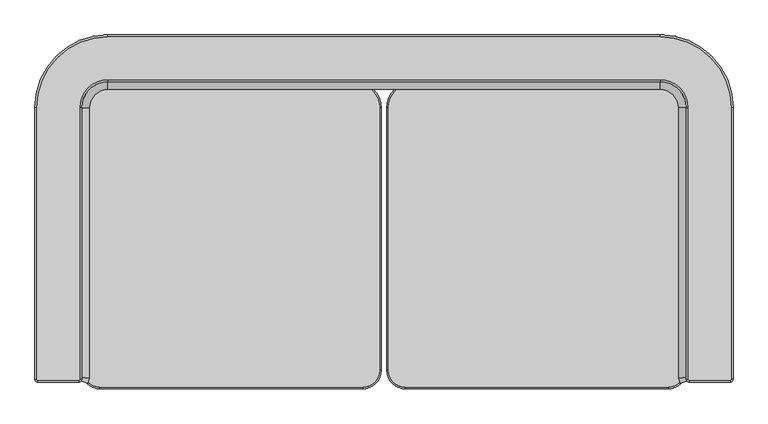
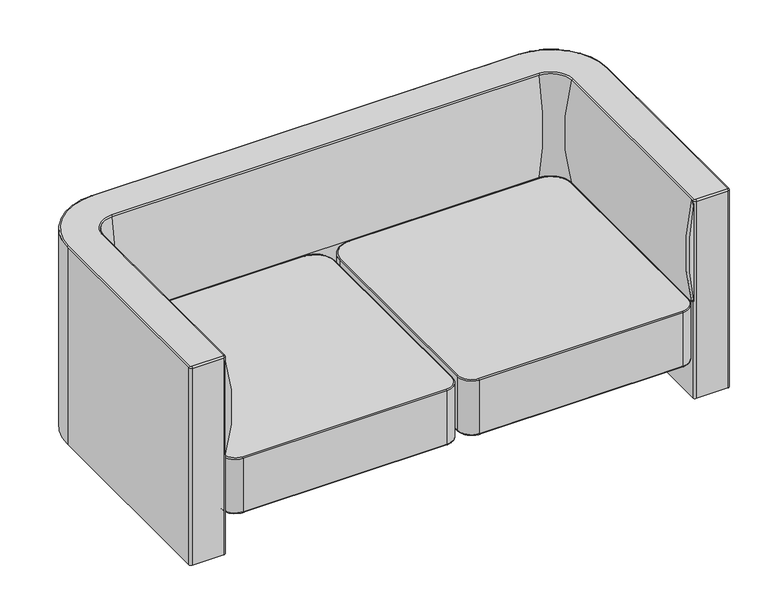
"""IFC4 building model written with IfcOpenShell, lengths in millimetres: furniture geometry, 00304 - Haworth - Castelli - Jul 13 - Ver - 4 - M_Sit (SLMS-FD02-8P) : Settee_SLMS-FD-02."""

from ifc_helpers import new_model, si_unit, point, frame, origin, place, context, project, spatial, polyline, circle_curve, ellipse_curve, trimmed, source, transform, mapped, element, save
from ifc_brep_helpers import plane_surface, cylinder_surface, revolved_surface, advanced_brep


def furniture_bfac4297(model_context):
    return source(origin(), model_context, "Body", "AdvancedBrep", [
        advanced_brep(
        [(84.0911369, -82.8725513, 394.49375), (656.2360588, -82.8725513, 394.49375), (692.7485588, -46.3600513, 394.49375), (692.7485588, 524.8422924, 394.49375), (638.7735588, 578.8172924, 394.49375), (101.5536369, 578.8172924, 394.49375), (47.5786369, 524.8422924, 394.49375), (47.5786369, -46.3600513, 394.49375), (656.2360588, -82.8725513, 229.39375), (84.0911369, -82.8725513, 229.39375), (47.5786369, -46.3600513, 229.39375), (47.5786369, 524.8422924, 229.39375), (101.5536369, 578.8172924, 229.39375), (638.7735588, 578.8172924, 229.39375), (692.7485588, 524.8422924, 229.39375), (692.7485588, -46.3600513, 229.39375), (695.9235588, 524.8422924, 391.31875), (695.9235588, -46.3600513, 391.31875), (695.9235588, -46.3600513, 232.56875), (695.9235588, 524.8422924, 232.56875), (638.7735588, 581.9922924, 391.31875), (638.7735588, 581.9922924, 232.56875), (101.5536369, 581.9922924, 391.31875), (101.5536369, 581.9922924, 232.56875), (44.4036369, 524.8422924, 391.31875), (44.4036369, 524.8422924, 232.56875), (44.4036369, -46.3600513, 391.31875), (44.4036369, -46.3600513, 232.56875), (84.0911369, -86.0475513, 391.31875), (84.0911369, -86.0475513, 232.56875), (656.2360588, -86.0475513, 391.31875), (656.2360588, -86.0475513, 232.56875)],
        [
            (0, 1),
            (1, 2, circle_curve(frame((656.2360588, -46.3600513, 394.49375), z_axis=(0.0, 0.0, 1.0), x_axis=(1.0, 0.0, 0.0)), 36.5125)),
            (2, 3),
            (3, 4, circle_curve(frame((638.7735588, 524.8422924, 394.49375), z_axis=(0.0, 0.0, 1.0), x_axis=(0.0, 1.0, 0.0)), 53.975)),
            (4, 5),
            (5, 6, circle_curve(frame((101.5536369, 524.8422924, 394.49375), z_axis=(0.0, 0.0, 1.0), x_axis=(-1.0, 0.0, 0.0)), 53.975)),
            (6, 7),
            (7, 0, circle_curve(frame((84.0911369, -46.3600513, 394.49375), z_axis=(0.0, 0.0, 1.0), x_axis=(0.0, -1.0, 0.0)), 36.5125)),
            (8, 9),
            (9, 10, circle_curve(frame((84.0911369, -46.3600513, 229.39375), z_axis=(0.0, 0.0, -1.0), x_axis=(0.0, -1.0, 0.0)), 36.5125)),
            (10, 11),
            (11, 12, circle_curve(frame((101.5536369, 524.8422924, 229.39375), z_axis=(0.0, 0.0, -1.0), x_axis=(-1.0, 0.0, 0.0)), 53.975)),
            (12, 13),
            (13, 14, circle_curve(frame((638.7735588, 524.8422924, 229.39375), z_axis=(0.0, 0.0, -1.0), x_axis=(0.0, 1.0, 0.0)), 53.975)),
            (14, 15),
            (15, 8, circle_curve(frame((656.2360588, -46.3600513, 229.39375), z_axis=(0.0, 0.0, -1.0), x_axis=(1.0, 0.0, 0.0)), 36.5125)),
            (16, 17),
            (17, 18),
            (18, 19),
            (19, 16),
            (20, 16, circle_curve(frame((638.7735588, 524.8422924, 391.31875), z_axis=(0.0, 0.0, -1.0), x_axis=(1.0, 0.0, 0.0)), 57.15)),
            (19, 21, circle_curve(frame((638.7735588, 524.8422924, 232.56875), z_axis=(0.0, 0.0, 1.0), x_axis=(1.0, 0.0, 0.0)), 57.15)),
            (21, 20),
            (22, 20),
            (21, 23),
            (23, 22),
            (24, 22, circle_curve(frame((101.5536369, 524.8422924, 391.31875), z_axis=(0.0, 0.0, -1.0), x_axis=(1.0, 0.0, 0.0)), 57.15)),
            (23, 25, circle_curve(frame((101.5536369, 524.8422924, 232.56875), z_axis=(0.0, 0.0, 1.0), x_axis=(1.0, 0.0, 0.0)), 57.15)),
            (25, 24),
            (26, 24),
            (25, 27),
            (27, 26),
            (28, 26, circle_curve(frame((84.0911369, -46.3600513, 391.31875), z_axis=(0.0, 0.0, -1.0), x_axis=(1.0, 0.0, 0.0)), 39.6875)),
            (27, 29, circle_curve(frame((84.0911369, -46.3600513, 232.56875), z_axis=(0.0, 0.0, 1.0), x_axis=(1.0, 0.0, 0.0)), 39.6875)),
            (29, 28),
            (30, 28),
            (29, 31),
            (31, 30),
            (17, 30, circle_curve(frame((656.2360588, -46.3600513, 391.31875), z_axis=(0.0, 0.0, -1.0), x_axis=(1.0, 0.0, 0.0)), 39.6875)),
            (31, 18, circle_curve(frame((656.2360588, -46.3600513, 232.56875), z_axis=(0.0, 0.0, 1.0), x_axis=(1.0, 0.0, 0.0)), 39.6875)),
            (0, 28, circle_curve(frame((84.0911369, -82.8725513, 391.31875), z_axis=(1.0, 0.0, 0.0), x_axis=(0.0, -1.0, 0.0)), 3.175)),
            (30, 1, circle_curve(frame((656.2360588, -82.8725513, 391.31875), z_axis=(-1.0, 0.0, 0.0), x_axis=(0.0, -1.0, 0.0)), 3.175)),
            (7, 26, circle_curve(frame((47.5786369, -46.3600513, 391.31875), z_axis=(0.0, -1.0, 0.0), x_axis=(-1.0, 0.0, 0.0)), 3.175)),
            (6, 24, circle_curve(frame((47.5786369, 524.8422924, 391.31875), z_axis=(0.0, -1.0, 0.0), x_axis=(-1.0, 0.0, 0.0)), 3.175)),
            (5, 22, circle_curve(frame((101.5536369, 578.8172924, 391.31875), z_axis=(-1.0, 0.0, 0.0), x_axis=(0.0, 1.0, 0.0)), 3.175)),
            (4, 20, circle_curve(frame((638.7735588, 578.8172924, 391.31875), z_axis=(-1.0, 0.0, 0.0), x_axis=(0.0, 1.0, 0.0)), 3.175)),
            (3, 16, circle_curve(frame((692.7485588, 524.8422924, 391.31875), z_axis=(0.0, 1.0, 0.0), x_axis=(1.0, 0.0, 0.0)), 3.175)),
            (2, 17, circle_curve(frame((692.7485588, -46.3600513, 391.31875), z_axis=(0.0, 1.0, 0.0), x_axis=(1.0, 0.0, 0.0)), 3.175)),
            (29, 9, circle_curve(frame((84.0911369, -82.8725513, 232.56875), z_axis=(1.0, 0.0, 0.0), x_axis=(0.0, -1.0, 0.0)), 3.175)),
            (8, 31, circle_curve(frame((656.2360588, -82.8725513, 232.56875), z_axis=(-1.0, 0.0, 0.0), x_axis=(0.0, -1.0, 0.0)), 3.175)),
            (27, 10, circle_curve(frame((47.5786369, -46.3600513, 232.56875), z_axis=(0.0, -1.0, 0.0), x_axis=(-1.0, 0.0, 0.0)), 3.175)),
            (25, 11, circle_curve(frame((47.5786369, 524.8422924, 232.56875), z_axis=(0.0, -1.0, 0.0), x_axis=(-1.0, 0.0, 0.0)), 3.175)),
            (23, 12, circle_curve(frame((101.5536369, 578.8172924, 232.56875), z_axis=(-1.0, 0.0, 0.0), x_axis=(0.0, 1.0, 0.0)), 3.175)),
            (21, 13, circle_curve(frame((638.7735588, 578.8172924, 232.56875), z_axis=(-1.0, 0.0, 0.0), x_axis=(0.0, 1.0, 0.0)), 3.175)),
            (19, 14, circle_curve(frame((692.7485588, 524.8422924, 232.56875), z_axis=(0.0, 1.0, 0.0), x_axis=(1.0, 0.0, 0.0)), 3.175)),
            (18, 15, circle_curve(frame((692.7485588, -46.3600513, 232.56875), z_axis=(0.0, 1.0, 0.0), x_axis=(1.0, 0.0, 0.0)), 3.175)),
        ],
        [
            plane_surface(frame((695.9235588, 524.8422924, 394.49375), z_axis=(0.0, 0.0, 1.0), x_axis=(0.0, 1.0, 0.0))),
            plane_surface(frame((695.9235588, 524.8422924, 229.39375), z_axis=(0.0, 0.0, -1.0), x_axis=(0.0, -1.0, 0.0))),
            plane_surface(frame((695.9235588, -46.3600513, 394.49375), z_axis=(1.0, 0.0, 0.0), x_axis=(0.0, 0.0, -1.0))),
            cylinder_surface(frame((638.7735588, 524.8422924, 229.39375), z_axis=(0.0, 0.0, 1.0), x_axis=(1.0, 0.0, 0.0)), 57.15),
            plane_surface(frame((638.7735588, 581.9922924, 394.49375), z_axis=(0.0, 1.0, 0.0), x_axis=(0.0, 0.0, -1.0))),
            cylinder_surface(frame((101.5536369, 524.8422924, 229.39375), z_axis=(0.0, 0.0, 1.0), x_axis=(1.0, 0.0, 0.0)), 57.15),
            plane_surface(frame((44.4036369, 524.8422924, 394.49375), z_axis=(-1.0, 0.0, 0.0), x_axis=(0.0, 0.0, -1.0))),
            cylinder_surface(frame((84.0911369, -46.3600513, 229.39375), z_axis=(0.0, 0.0, 1.0), x_axis=(1.0, 0.0, 0.0)), 39.6875),
            plane_surface(frame((84.0911369, -86.0475513, 394.49375), z_axis=(0.0, -1.0, 0.0), x_axis=(0.0, 0.0, -1.0))),
            cylinder_surface(frame((656.2360588, -46.3600513, 229.39375), z_axis=(0.0, 0.0, 1.0), x_axis=(1.0, 0.0, 0.0)), 39.6875),
            cylinder_surface(frame((656.2360588, -82.8725513, 391.31875), z_axis=(-1.0, 0.0, 0.0), x_axis=(0.0, -1.0, 0.0)), 3.175),
            revolved_surface(trimmed(ellipse_curve(frame((84.0911369, -82.8725513, 391.31875), z_axis=(1.0, 0.0, 0.0), x_axis=(0.0, -1.0, 0.0)), 3.175, 3.175), [point((84.0911369, -82.8725513, 394.49375))], [point((84.0911369, -86.0475513, 391.31875))], True, "CARTESIAN"), (84.0911369, -46.3600513, 394.49375), (0.0, 0.0, -1.0)),
            cylinder_surface(frame((47.5786369, -46.3600513, 391.31875), z_axis=(0.0, 1.0, 0.0), x_axis=(-1.0, 0.0, 0.0)), 3.175),
            revolved_surface(trimmed(ellipse_curve(frame((47.5786369, 524.8422924, 391.31875), z_axis=(0.0, -1.0, 0.0), x_axis=(-1.0, 0.0, 0.0)), 3.175, 3.175), [point((47.5786369, 524.8422924, 394.49375))], [point((44.4036369, 524.8422924, 391.31875))], True, "CARTESIAN"), (101.5536369, 524.8422924, 394.49375), (0.0, 0.0, -1.0)),
            cylinder_surface(frame((101.5536369, 578.8172924, 391.31875), z_axis=(1.0, 0.0, 0.0), x_axis=(0.0, 1.0, 0.0)), 3.175),
            revolved_surface(trimmed(ellipse_curve(frame((638.7735588, 578.8172924, 391.31875), z_axis=(-1.0, 0.0, 0.0), x_axis=(0.0, 1.0, 0.0)), 3.175, 3.175), [point((638.7735588, 578.8172924, 394.49375))], [point((638.7735588, 581.9922924, 391.31875))], True, "CARTESIAN"), (638.7735588, 524.8422924, 394.49375), (0.0, 0.0, -1.0)),
            cylinder_surface(frame((692.7485588, 524.8422924, 391.31875), z_axis=(0.0, -1.0, 0.0), x_axis=(1.0, 0.0, 0.0)), 3.175),
            revolved_surface(trimmed(ellipse_curve(frame((692.7485588, -46.3600513, 391.31875), z_axis=(0.0, 1.0, 0.0), x_axis=(1.0, 0.0, 0.0)), 3.175, 3.175), [point((692.7485588, -46.3600513, 394.49375))], [point((695.9235588, -46.3600513, 391.31875))], True, "CARTESIAN"), (656.2360588, -46.3600513, 394.49375), (0.0, 0.0, -1.0)),
            cylinder_surface(frame((656.2360588, -82.8725513, 232.56875), z_axis=(-1.0, 0.0, 0.0), x_axis=(0.0, -1.0, 0.0)), 3.175),
            revolved_surface(trimmed(ellipse_curve(frame((84.0911369, -82.8725513, 232.56875), z_axis=(1.0, 0.0, 0.0), x_axis=(0.0, -1.0, 0.0)), 3.175, 3.175), [point((84.0911369, -86.0475513, 232.56875))], [point((84.0911369, -82.8725513, 229.39375))], True, "CARTESIAN"), (84.0911369, -46.3600513, 229.39375), (0.0, 0.0, -1.0)),
            cylinder_surface(frame((47.5786369, -46.3600513, 232.56875), z_axis=(0.0, 1.0, 0.0), x_axis=(-1.0, 0.0, 0.0)), 3.175),
            revolved_surface(trimmed(ellipse_curve(frame((47.5786369, 524.8422924, 232.56875), z_axis=(0.0, -1.0, 0.0), x_axis=(-1.0, 0.0, 0.0)), 3.175, 3.175), [point((44.4036369, 524.8422924, 232.56875))], [point((47.5786369, 524.8422924, 229.39375))], True, "CARTESIAN"), (101.5536369, 524.8422924, 229.39375), (0.0, 0.0, -1.0)),
            cylinder_surface(frame((101.5536369, 578.8172924, 232.56875), z_axis=(1.0, 0.0, 0.0), x_axis=(0.0, 1.0, 0.0)), 3.175),
            revolved_surface(trimmed(ellipse_curve(frame((638.7735588, 578.8172924, 232.56875), z_axis=(-1.0, 0.0, 0.0), x_axis=(0.0, 1.0, 0.0)), 3.175, 3.175), [point((638.7735588, 581.9922924, 232.56875))], [point((638.7735588, 578.8172924, 229.39375))], True, "CARTESIAN"), (638.7735588, 524.8422924, 229.39375), (0.0, 0.0, -1.0)),
            cylinder_surface(frame((692.7485588, 524.8422924, 232.56875), z_axis=(0.0, -1.0, 0.0), x_axis=(1.0, 0.0, 0.0)), 3.175),
            revolved_surface(trimmed(ellipse_curve(frame((692.7485588, -46.3600513, 232.56875), z_axis=(0.0, 1.0, 0.0), x_axis=(1.0, 0.0, 0.0)), 3.175, 3.175), [point((695.9235588, -46.3600513, 232.56875))], [point((692.7485588, -46.3600513, 229.39375))], True, "CARTESIAN"), (656.2360588, -46.3600513, 229.39375), (0.0, 0.0, -1.0)),
        ],
        [
            (0, [[1, 2, 3, 4, 5, 6, 7, 8]]),
            (1, [[9, 10, 11, 12, 13, 14, 15, 16]]),
            (2, [[17, 18, 19, 20]]),
            (3, [[21, -20, 22, 23]]),
            (4, [[24, -23, 25, 26]]),
            (5, [[27, -26, 28, 29]]),
            (6, [[30, -29, 31, 32]]),
            (7, [[33, -32, 34, 35]]),
            (8, [[36, -35, 37, 38]]),
            (9, [[39, -38, 40, -18]]),
            (10, [[41, -36, 42, -1]]),
            (11, [[-41, -8, 43, -33]]),
            (12, [[-43, -7, 44, -30]]),
            (13, [[-44, -6, 45, -27]]),
            (14, [[-45, -5, 46, -24]]),
            (15, [[-46, -4, 47, -21]]),
            (16, [[-47, -3, 48, -17]]),
            (17, [[-42, -39, -48, -2]]),
            (18, [[49, -9, 50, -37]]),
            (19, [[-49, -34, 51, -10]]),
            (20, [[-51, -31, 52, -11]]),
            (21, [[-52, -28, 53, -12]]),
            (22, [[-53, -25, 54, -13]]),
            (23, [[-54, -22, 55, -14]]),
            (24, [[-55, -19, 56, -15]]),
            (25, [[-50, -16, -56, -40]]),
        ],
    ),
        advanced_brep(
        [(698.8311717, -68.74393, 394.49375), (698.8311717, -68.74393, 697.6487058), (695.9235588, -60.7553292, 394.49375), (695.9235588, -60.7553292, 697.6487058), (695.9235588, -46.3600513, 394.49375), (695.9235588, 524.8422924, 394.49375), (695.9235588, 524.8422924, 697.6487058), (638.7735588, 581.9922924, 394.49375), (638.7735588, 581.9922924, 697.6487058), (101.5536369, 581.9922924, 394.49375), (-25.4463631, 581.9922924, 394.49375), (-562.666285, 581.9922924, 394.49375), (-562.666285, 581.9922924, 697.6487058), (-619.816285, 524.8422924, 394.49375), (-619.816285, 524.8422924, 697.6487058), (-619.816285, -46.3600513, 394.49375), (-619.816285, -60.7553292, 394.49375), (-619.816285, -60.7553292, 697.6487058), (-622.7238979, -68.74393, 394.49375), (-622.7238979, -68.74393, 697.6487058)],
        [
            (0, 1),
            (1, 0, circle_curve(frame((1252.1749523, 132.6567355, 546.0712279), z_axis=(0.342020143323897, -0.9396926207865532, 0.0), x_axis=(-0.9396926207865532, -0.342020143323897, 0.0)), 608.0520532)),
            (0, 2),
            (2, 3),
            (3, 1),
            (3, 2, ellipse_curve(frame((1284.7797107, 43.0758981, 546.0712279), z_axis=(0.17364817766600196, -0.9848077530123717, 0.0), x_axis=(0.984807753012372, 0.17364817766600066, 0.0)), 617.4322363, 608.0520532)),
            (2, 4),
            (4, 5),
            (5, 6),
            (6, 3),
            (6, 5, circle_curve(frame((1284.7797107, 524.8422924, 546.0712279), z_axis=(0.0, -1.0, 0.0), x_axis=(-1.0, 0.0, 0.0)), 608.0520532)),
            (5, 7, circle_curve(frame((638.7735588, 524.8422924, 394.49375), z_axis=(0.0, 0.0, 1.0), x_axis=(1.0, 0.0, 0.0)), 57.15)),
            (7, 8),
            (8, 6, circle_curve(frame((638.7735588, 524.8422924, 697.6487058), z_axis=(0.0, 0.0, -1.0), x_axis=(1.0, 0.0, 0.0)), 57.15)),
            (8, 7, circle_curve(frame((638.7735588, 1170.8484443, 546.0712279), z_axis=(1.0, 0.0, 0.0), x_axis=(0.0, -1.0, 0.0)), 608.0520532)),
            (7, 9),
            (9, 10),
            (10, 11),
            (11, 12),
            (12, 8),
            (12, 11, circle_curve(frame((-562.666285, 1170.8484443, 546.0712279), z_axis=(1.0, 0.0, 0.0), x_axis=(0.0, -1.0, 0.0)), 608.0520532)),
            (11, 13, circle_curve(frame((-562.666285, 524.8422924, 394.49375), z_axis=(0.0, 0.0, 1.0), x_axis=(0.0, 1.0, 0.0)), 57.15)),
            (13, 14),
            (14, 12, circle_curve(frame((-562.666285, 524.8422924, 697.6487058), z_axis=(0.0, 0.0, -1.0), x_axis=(0.0, 1.0, 0.0)), 57.15)),
            (14, 13, circle_curve(frame((-1208.6724368, 524.8422924, 546.0712279), z_axis=(0.0, 1.0, 0.0), x_axis=(1.0, 0.0, 0.0)), 608.0520532)),
            (13, 15),
            (15, 16),
            (16, 17),
            (17, 14),
            (17, 16, ellipse_curve(frame((-1208.6724368, 43.0758981, 546.0712279), z_axis=(0.1736481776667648, 0.9848077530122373, 0.0), x_axis=(-0.9848077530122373, 0.17364817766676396, 0.0)), 617.4322363, 608.0520532)),
            (18, 19, circle_curve(frame((-1176.0676785, 132.6567355, 546.0712279), z_axis=(-0.3420201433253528, -0.9396926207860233, 0.0), x_axis=(0.9396926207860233, -0.3420201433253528, 0.0)), 608.0520532)),
            (19, 18),
            (16, 18),
            (19, 17),
        ],
        [
            plane_surface(frame((698.8311717, -68.74393, 394.49375), z_axis=(0.342020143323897, -0.9396926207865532, 0.0), x_axis=(0.0, 0.0, 1.0))),
            plane_surface(frame((698.8311717, -68.74393, 394.49375), z_axis=(0.9396926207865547, 0.3420201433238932, 0.0), x_axis=(-0.3420201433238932, 0.9396926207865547, 0.0))),
            cylinder_surface(frame((1252.1749523, 132.6567355, 546.0712279), z_axis=(0.342020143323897, -0.9396926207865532, 0.0), x_axis=(-0.9396926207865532, -0.342020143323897, 0.0)), 608.0520532),
            plane_surface(frame((695.9235588, -60.7553292, 394.49375), z_axis=(1.0, 0.0, 0.0), x_axis=(0.0, 1.0, 0.0))),
            cylinder_surface(frame((1284.7797107, -60.7553292, 546.0712279), z_axis=(0.0, -1.0, 0.0), x_axis=(-1.0, 0.0, 0.0)), 608.0520532),
            cylinder_surface(frame((638.7735588, 524.8422924, 394.49375), z_axis=(0.0, 0.0, 1.0), x_axis=(1.0, 0.0, 0.0)), 57.15),
            revolved_surface(trimmed(ellipse_curve(frame((1284.7797107, 524.8422924, 546.0712279), z_axis=(0.0, -1.0, 0.0), x_axis=(-1.0, 0.0, 0.0)), 608.0520532, 608.0520532), [point((695.9235588, 524.8422924, 697.6487058))], [point((695.9235588, 524.8422924, 394.49375))], True, "CARTESIAN"), (638.7735588, 524.8422924, 394.49375), (0.0, 0.0, 1.0)),
            plane_surface(frame((638.7735588, 581.9922924, 394.49375), z_axis=(0.0, 1.0, 0.0), x_axis=(-1.0, 0.0, 0.0))),
            cylinder_surface(frame((638.7735588, 1170.8484443, 546.0712279), z_axis=(1.0, 0.0, 0.0), x_axis=(0.0, -1.0, 0.0)), 608.0520532),
            cylinder_surface(frame((-562.666285, 524.8422924, 394.49375), z_axis=(0.0, 0.0, 1.0), x_axis=(0.0, 1.0, 0.0)), 57.15),
            revolved_surface(trimmed(ellipse_curve(frame((-562.666285, 1170.8484443, 546.0712279), z_axis=(1.0, 0.0, 0.0), x_axis=(0.0, -1.0, 0.0)), 608.0520532, 608.0520532), [point((-562.666285, 581.9922924, 697.6487058))], [point((-562.666285, 581.9922924, 394.49375))], True, "CARTESIAN"), (-562.666285, 524.8422924, 394.49375), (0.0, 0.0, 1.0)),
            plane_surface(frame((-619.816285, 524.8422924, 394.49375), z_axis=(-1.0, 0.0, 0.0), x_axis=(0.0, -1.0, 0.0))),
            cylinder_surface(frame((-1208.6724368, 524.8422924, 546.0712279), z_axis=(0.0, 1.0, 0.0), x_axis=(1.0, 0.0, 0.0)), 608.0520532),
            plane_surface(frame((-622.7238979, -68.74393, 394.49375), z_axis=(-0.3420201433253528, -0.9396926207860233, 0.0), x_axis=(0.0, 0.0, 1.0))),
            plane_surface(frame((-619.816285, -60.7553292, 394.49375), z_axis=(-0.9396926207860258, 0.3420201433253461, 0.0), x_axis=(-0.3420201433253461, -0.9396926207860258, 0.0))),
            cylinder_surface(frame((-1173.1600656, 140.6453363, 546.0712279), z_axis=(0.3420201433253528, 0.9396926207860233, 0.0), x_axis=(0.9396926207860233, -0.3420201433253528, 0.0)), 608.0520532),
        ],
        [
            (0, [[1, 2]]),
            (1, [[-1, 3, 4, 5]]),
            (2, [[-2, -5, 6, -3]]),
            (3, [[-4, 7, 8, 9, 10]]),
            (4, [[-6, -10, 11, -8, -7]]),
            (5, [[-9, 12, 13, 14]]),
            (6, [[-11, -14, 15, -12]]),
            (7, [[-13, 16, 17, 18, 19, 20]]),
            (8, [[-15, -20, 21, -18, -17, -16]]),
            (9, [[-19, 22, 23, 24]]),
            (10, [[-21, -24, 25, -22]]),
            (11, [[-23, 26, 27, 28, 29]]),
            (12, [[-25, -29, 30, -27, -26]]),
            (13, [[31, 32]]),
            (14, [[-28, 33, -32, 34]]),
            (15, [[-30, -34, -31, -33]]),
        ],
    ),
        advanced_brep(
        [(-580.128785, -82.8725513, 394.49375), (-7.9838631, -82.8725513, 394.49375), (28.5286369, -46.3600513, 394.49375), (28.5286369, 524.8422924, 394.49375), (-25.4463631, 578.8172924, 394.49375), (-562.666285, 578.8172924, 394.49375), (-616.641285, 524.8422924, 394.49375), (-616.641285, -46.3600513, 394.49375), (-7.9838631, -82.8725513, 229.39375), (-580.128785, -82.8725513, 229.39375), (-616.641285, -46.3600513, 229.39375), (-616.641285, 524.8422924, 229.39375), (-562.666285, 578.8172924, 229.39375), (-25.4463631, 578.8172924, 229.39375), (28.5286369, 524.8422924, 229.39375), (28.5286369, -46.3600513, 229.39375), (-580.128785, -86.0475513, 391.31875), (-619.816285, -46.3600513, 391.31875), (-619.816285, -46.3600513, 232.56875), (-580.128785, -86.0475513, 232.56875), (-7.9838631, -86.0475513, 391.31875), (-7.9838631, -86.0475513, 232.56875), (31.7036369, -46.3600513, 391.31875), (31.7036369, -46.3600513, 232.56875), (31.7036369, 524.8422924, 391.31875), (31.7036369, 524.8422924, 232.56875), (-25.4463631, 581.9922924, 391.31875), (-25.4463631, 581.9922924, 232.56875), (-562.666285, 581.9922924, 391.31875), (-562.666285, 581.9922924, 232.56875), (-619.816285, 524.8422924, 391.31875), (-619.816285, 524.8422924, 232.56875)],
        [
            (0, 1),
            (1, 2, circle_curve(frame((-7.9838631, -46.3600513, 394.49375), z_axis=(0.0, 0.0, 1.0), x_axis=(0.0, -1.0, 0.0)), 36.5125)),
            (2, 3),
            (3, 4, circle_curve(frame((-25.4463631, 524.8422924, 394.49375), z_axis=(0.0, 0.0, 1.0), x_axis=(1.0, 0.0, 0.0)), 53.975)),
            (4, 5),
            (5, 6, circle_curve(frame((-562.666285, 524.8422924, 394.49375), z_axis=(0.0, 0.0, 1.0), x_axis=(0.0, 1.0, 0.0)), 53.975)),
            (6, 7),
            (7, 0, circle_curve(frame((-580.128785, -46.3600513, 394.49375), z_axis=(0.0, 0.0, 1.0), x_axis=(-1.0, 0.0, 0.0)), 36.5125)),
            (8, 9),
            (9, 10, circle_curve(frame((-580.128785, -46.3600513, 229.39375), z_axis=(0.0, 0.0, -1.0), x_axis=(-1.0, 0.0, 0.0)), 36.5125)),
            (10, 11),
            (11, 12, circle_curve(frame((-562.666285, 524.8422924, 229.39375), z_axis=(0.0, 0.0, -1.0), x_axis=(0.0, 1.0, 0.0)), 53.975)),
            (12, 13),
            (13, 14, circle_curve(frame((-25.4463631, 524.8422924, 229.39375), z_axis=(0.0, 0.0, -1.0), x_axis=(1.0, 0.0, 0.0)), 53.975)),
            (14, 15),
            (15, 8, circle_curve(frame((-7.9838631, -46.3600513, 229.39375), z_axis=(0.0, 0.0, -1.0), x_axis=(0.0, -1.0, 0.0)), 36.5125)),
            (16, 17, circle_curve(frame((-580.128785, -46.3600513, 391.31875), z_axis=(0.0, 0.0, -1.0), x_axis=(-1.0, 0.0, 0.0)), 39.6875)),
            (17, 18),
            (18, 19, circle_curve(frame((-580.128785, -46.3600513, 232.56875), z_axis=(0.0, 0.0, 1.0), x_axis=(-1.0, 0.0, 0.0)), 39.6875)),
            (19, 16),
            (20, 16),
            (19, 21),
            (21, 20),
            (22, 20, circle_curve(frame((-7.9838631, -46.3600513, 391.31875), z_axis=(0.0, 0.0, -1.0), x_axis=(-1.0, 0.0, 0.0)), 39.6875)),
            (21, 23, circle_curve(frame((-7.9838631, -46.3600513, 232.56875), z_axis=(0.0, 0.0, 1.0), x_axis=(-1.0, 0.0, 0.0)), 39.6875)),
            (23, 22),
            (24, 22),
            (23, 25),
            (25, 24),
            (26, 24, circle_curve(frame((-25.4463631, 524.8422924, 391.31875), z_axis=(0.0, 0.0, -1.0), x_axis=(-1.0, 0.0, 0.0)), 57.15)),
            (25, 27, circle_curve(frame((-25.4463631, 524.8422924, 232.56875), z_axis=(0.0, 0.0, 1.0), x_axis=(-1.0, 0.0, 0.0)), 57.15)),
            (27, 26),
            (28, 26),
            (27, 29),
            (29, 28),
            (30, 28, circle_curve(frame((-562.666285, 524.8422924, 391.31875), z_axis=(0.0, 0.0, -1.0), x_axis=(-1.0, 0.0, 0.0)), 57.15)),
            (29, 31, circle_curve(frame((-562.666285, 524.8422924, 232.56875), z_axis=(0.0, 0.0, 1.0), x_axis=(-1.0, 0.0, 0.0)), 57.15)),
            (31, 30),
            (17, 30),
            (31, 18),
            (20, 1, circle_curve(frame((-7.9838631, -82.8725513, 391.31875), z_axis=(-1.0, 0.0, 0.0), x_axis=(0.0, 1.0, 0.0)), 3.175)),
            (0, 16, circle_curve(frame((-580.128785, -82.8725513, 391.31875), z_axis=(1.0, 0.0, 0.0), x_axis=(0.0, 1.0, 0.0)), 3.175)),
            (22, 2, circle_curve(frame((28.5286369, -46.3600513, 391.31875), z_axis=(0.0, -1.0, 0.0), x_axis=(-1.0, 0.0, 0.0)), 3.175)),
            (24, 3, circle_curve(frame((28.5286369, 524.8422924, 391.31875), z_axis=(0.0, -1.0, 0.0), x_axis=(-1.0, 0.0, 0.0)), 3.175)),
            (26, 4, circle_curve(frame((-25.4463631, 578.8172924, 391.31875), z_axis=(1.0, 0.0, 0.0), x_axis=(0.0, -1.0, 0.0)), 3.175)),
            (28, 5, circle_curve(frame((-562.666285, 578.8172924, 391.31875), z_axis=(1.0, 0.0, 0.0), x_axis=(0.0, -1.0, 0.0)), 3.175)),
            (30, 6, circle_curve(frame((-616.641285, 524.8422924, 391.31875), z_axis=(0.0, 1.0, 0.0), x_axis=(1.0, 0.0, 0.0)), 3.175)),
            (17, 7, circle_curve(frame((-616.641285, -46.3600513, 391.31875), z_axis=(0.0, 1.0, 0.0), x_axis=(1.0, 0.0, 0.0)), 3.175)),
            (8, 21, circle_curve(frame((-7.9838631, -82.8725513, 232.56875), z_axis=(-1.0, 0.0, 0.0), x_axis=(0.0, 1.0, 0.0)), 3.175)),
            (19, 9, circle_curve(frame((-580.128785, -82.8725513, 232.56875), z_axis=(1.0, 0.0, 0.0), x_axis=(0.0, 1.0, 0.0)), 3.175)),
            (15, 23, circle_curve(frame((28.5286369, -46.3600513, 232.56875), z_axis=(0.0, -1.0, 0.0), x_axis=(-1.0, 0.0, 0.0)), 3.175)),
            (14, 25, circle_curve(frame((28.5286369, 524.8422924, 232.56875), z_axis=(0.0, -1.0, 0.0), x_axis=(-1.0, 0.0, 0.0)), 3.175)),
            (13, 27, circle_curve(frame((-25.4463631, 578.8172924, 232.56875), z_axis=(1.0, 0.0, 0.0), x_axis=(0.0, -1.0, 0.0)), 3.175)),
            (12, 29, circle_curve(frame((-562.666285, 578.8172924, 232.56875), z_axis=(1.0, 0.0, 0.0), x_axis=(0.0, -1.0, 0.0)), 3.175)),
            (11, 31, circle_curve(frame((-616.641285, 524.8422924, 232.56875), z_axis=(0.0, 1.0, 0.0), x_axis=(1.0, 0.0, 0.0)), 3.175)),
            (10, 18, circle_curve(frame((-616.641285, -46.3600513, 232.56875), z_axis=(0.0, 1.0, 0.0), x_axis=(1.0, 0.0, 0.0)), 3.175)),
        ],
        [
            plane_surface(frame((-619.816285, -46.3600513, 394.49375), z_axis=(0.0, 0.0, 1.0), x_axis=(0.0, -1.0, 0.0))),
            plane_surface(frame((-619.816285, -46.3600513, 229.39375), z_axis=(0.0, 0.0, -1.0), x_axis=(0.0, 1.0, 0.0))),
            cylinder_surface(frame((-580.128785, -46.3600513, 229.39375), z_axis=(0.0, 0.0, 1.0), x_axis=(-1.0, 0.0, 0.0)), 39.6875),
            plane_surface(frame((-580.128785, -86.0475513, 394.49375), z_axis=(0.0, -1.0, 0.0), x_axis=(0.0, 0.0, -1.0))),
            cylinder_surface(frame((-7.9838631, -46.3600513, 229.39375), z_axis=(0.0, 0.0, 1.0), x_axis=(-1.0, 0.0, 0.0)), 39.6875),
            plane_surface(frame((31.7036369, -46.3600513, 394.49375), z_axis=(1.0, 0.0, 0.0), x_axis=(0.0, 0.0, -1.0))),
            cylinder_surface(frame((-25.4463631, 524.8422924, 229.39375), z_axis=(0.0, 0.0, 1.0), x_axis=(-1.0, 0.0, 0.0)), 57.15),
            plane_surface(frame((-25.4463631, 581.9922924, 394.49375), z_axis=(0.0, 1.0, 0.0), x_axis=(0.0, 0.0, -1.0))),
            cylinder_surface(frame((-562.666285, 524.8422924, 229.39375), z_axis=(0.0, 0.0, 1.0), x_axis=(-1.0, 0.0, 0.0)), 57.15),
            plane_surface(frame((-619.816285, 524.8422924, 394.49375), z_axis=(-1.0, 0.0, 0.0), x_axis=(0.0, 0.0, -1.0))),
            cylinder_surface(frame((-580.128785, -82.8725513, 391.31875), z_axis=(1.0, 0.0, 0.0), x_axis=(0.0, 1.0, 0.0)), 3.175),
            revolved_surface(trimmed(ellipse_curve(frame((-7.9838631, -82.8725513, 391.31875), z_axis=(-1.0, 0.0, 0.0), x_axis=(0.0, 1.0, 0.0)), 3.175, 3.175), [point((-7.9838631, -86.0475513, 391.31875))], [point((-7.9838631, -82.8725513, 394.49375))], True, "CARTESIAN"), (-7.9838631, -46.3600513, 394.49375), (0.0, 0.0, 1.0)),
            cylinder_surface(frame((28.5286369, -46.3600513, 391.31875), z_axis=(0.0, 1.0, 0.0), x_axis=(-1.0, 0.0, 0.0)), 3.175),
            revolved_surface(trimmed(ellipse_curve(frame((28.5286369, 524.8422924, 391.31875), z_axis=(0.0, -1.0, 0.0), x_axis=(-1.0, 0.0, 0.0)), 3.175, 3.175), [point((31.7036369, 524.8422924, 391.31875))], [point((28.5286369, 524.8422924, 394.49375))], True, "CARTESIAN"), (-25.4463631, 524.8422924, 394.49375), (0.0, 0.0, 1.0)),
            cylinder_surface(frame((-25.4463631, 578.8172924, 391.31875), z_axis=(-1.0, 0.0, 0.0), x_axis=(0.0, -1.0, 0.0)), 3.175),
            revolved_surface(trimmed(ellipse_curve(frame((-562.666285, 578.8172924, 391.31875), z_axis=(1.0, 0.0, 0.0), x_axis=(0.0, -1.0, 0.0)), 3.175, 3.175), [point((-562.666285, 581.9922924, 391.31875))], [point((-562.666285, 578.8172924, 394.49375))], True, "CARTESIAN"), (-562.666285, 524.8422924, 394.49375), (0.0, 0.0, 1.0)),
            cylinder_surface(frame((-616.641285, 524.8422924, 391.31875), z_axis=(0.0, -1.0, 0.0), x_axis=(1.0, 0.0, 0.0)), 3.175),
            revolved_surface(trimmed(ellipse_curve(frame((-616.641285, -46.3600513, 391.31875), z_axis=(0.0, 1.0, 0.0), x_axis=(1.0, 0.0, 0.0)), 3.175, 3.175), [point((-619.816285, -46.3600513, 391.31875))], [point((-616.641285, -46.3600513, 394.49375))], True, "CARTESIAN"), (-580.128785, -46.3600513, 394.49375), (0.0, 0.0, 1.0)),
            cylinder_surface(frame((-580.128785, -82.8725513, 232.56875), z_axis=(1.0, 0.0, 0.0), x_axis=(0.0, 1.0, 0.0)), 3.175),
            revolved_surface(trimmed(ellipse_curve(frame((-7.9838631, -82.8725513, 232.56875), z_axis=(-1.0, 0.0, 0.0), x_axis=(0.0, 1.0, 0.0)), 3.175, 3.175), [point((-7.9838631, -82.8725513, 229.39375))], [point((-7.9838631, -86.0475513, 232.56875))], True, "CARTESIAN"), (-7.9838631, -46.3600513, 229.39375), (0.0, 0.0, 1.0)),
            cylinder_surface(frame((28.5286369, -46.3600513, 232.56875), z_axis=(0.0, 1.0, 0.0), x_axis=(-1.0, 0.0, 0.0)), 3.175),
            revolved_surface(trimmed(ellipse_curve(frame((28.5286369, 524.8422924, 232.56875), z_axis=(0.0, -1.0, 0.0), x_axis=(-1.0, 0.0, 0.0)), 3.175, 3.175), [point((28.5286369, 524.8422924, 229.39375))], [point((31.7036369, 524.8422924, 232.56875))], True, "CARTESIAN"), (-25.4463631, 524.8422924, 229.39375), (0.0, 0.0, 1.0)),
            cylinder_surface(frame((-25.4463631, 578.8172924, 232.56875), z_axis=(-1.0, 0.0, 0.0), x_axis=(0.0, -1.0, 0.0)), 3.175),
            revolved_surface(trimmed(ellipse_curve(frame((-562.666285, 578.8172924, 232.56875), z_axis=(1.0, 0.0, 0.0), x_axis=(0.0, -1.0, 0.0)), 3.175, 3.175), [point((-562.666285, 578.8172924, 229.39375))], [point((-562.666285, 581.9922924, 232.56875))], True, "CARTESIAN"), (-562.666285, 524.8422924, 229.39375), (0.0, 0.0, 1.0)),
            cylinder_surface(frame((-616.641285, 524.8422924, 232.56875), z_axis=(0.0, -1.0, 0.0), x_axis=(1.0, 0.0, 0.0)), 3.175),
            revolved_surface(trimmed(ellipse_curve(frame((-616.641285, -46.3600513, 232.56875), z_axis=(0.0, 1.0, 0.0), x_axis=(1.0, 0.0, 0.0)), 3.175, 3.175), [point((-616.641285, -46.3600513, 229.39375))], [point((-619.816285, -46.3600513, 232.56875))], True, "CARTESIAN"), (-580.128785, -46.3600513, 229.39375), (0.0, 0.0, 1.0)),
        ],
        [
            (0, [[1, 2, 3, 4, 5, 6, 7, 8]]),
            (1, [[9, 10, 11, 12, 13, 14, 15, 16]]),
            (2, [[17, 18, 19, 20]]),
            (3, [[21, -20, 22, 23]]),
            (4, [[24, -23, 25, 26]]),
            (5, [[27, -26, 28, 29]]),
            (6, [[30, -29, 31, 32]]),
            (7, [[33, -32, 34, 35]]),
            (8, [[36, -35, 37, 38]]),
            (9, [[39, -38, 40, -18]]),
            (10, [[41, -1, 42, -21]]),
            (11, [[-41, -24, 43, -2]]),
            (12, [[-43, -27, 44, -3]]),
            (13, [[-44, -30, 45, -4]]),
            (14, [[-45, -33, 46, -5]]),
            (15, [[-46, -36, 47, -6]]),
            (16, [[-47, -39, 48, -7]]),
            (17, [[-42, -8, -48, -17]]),
            (18, [[49, -22, 50, -9]]),
            (19, [[-49, -16, 51, -25]]),
            (20, [[-51, -15, 52, -28]]),
            (21, [[-52, -14, 53, -31]]),
            (22, [[-53, -13, 54, -34]]),
            (23, [[-54, -12, 55, -37]]),
            (24, [[-55, -11, 56, -40]]),
            (25, [[-50, -19, -56, -10]]),
        ],
    ),
        advanced_brep(
        [(-717.228019, 524.8422924, 701.0796875), (-717.228019, -65.4100513, 701.0796875), (-715.066285, -67.5717854, 701.0796875), (-626.166285, -67.5717854, 701.0796875), (-624.0045509, -65.4100513, 701.0796875), (-624.0045509, 524.8422924, 701.0796875), (-562.666285, 586.1805584, 701.0796875), (638.7735588, 586.1805584, 701.0796875), (700.1118247, 524.8422924, 701.0796875), (700.1118247, -65.4100513, 701.0796875), (702.2735588, -67.5717854, 701.0796875), (791.1735588, -67.5717854, 701.0796875), (793.3352929, -65.4100513, 701.0796875), (793.3352929, 524.8422924, 701.0796875), (638.7735588, 679.4040265, 701.0796875), (-562.666285, 679.4040265, 701.0796875), (-721.416285, -65.4100513, 111.91875), (-721.416285, 524.8422924, 111.91875), (-562.666285, 683.5922924, 111.91875), (638.7735588, 683.5922924, 111.91875), (797.5235588, 524.8422924, 111.91875), (797.5235588, -65.4100513, 111.91875), (791.1735588, -71.7600513, 111.91875), (702.2735588, -71.7600513, 111.91875), (695.9235588, -65.4100513, 111.91875), (695.9235588, 524.8422924, 111.91875), (638.7735588, 581.9922924, 111.91875), (-562.666285, 581.9922924, 111.91875), (-619.816285, 524.8422924, 111.91875), (-619.816285, -65.4100513, 111.91875), (-626.166285, -71.7600513, 111.91875), (-715.066285, -71.7600513, 111.91875), (-715.066285, -71.7600513, 696.8914221), (-721.416285, -65.4100513, 696.8914216), (-626.166285, -71.7600513, 696.8914216), (-619.816285, -65.4100513, 696.8914205), (-619.816285, 524.8422924, 229.39375), (-619.816285, 524.8422924, 232.56875), (-619.816285, 524.8422924, 391.318758), (-619.816285, 524.8422924, 394.49375), (-619.816285, 524.8422924, 696.8914216), (-562.666285, 581.9922924, 229.39375), (-562.666285, 581.9922924, 232.56875), (-562.666285, 581.9922924, 391.31875), (-562.666285, 581.9922924, 394.49375), (-562.666285, 581.9922924, 696.8914276), (638.7735588, 581.9922924, 229.39375), (638.7735588, 581.9922924, 232.56875), (638.7735588, 581.9922924, 391.31875), (638.7735588, 581.9922924, 394.49375), (638.7735588, 581.9922924, 696.8914216), (695.9235588, 524.8422924, 229.39375), (695.9235588, 524.8422924, 232.5687272), (695.9235588, 524.8422924, 391.31875), (695.9235588, 524.8422924, 394.49375), (695.9235588, 524.8422924, 696.8914216), (695.9235588, -65.4100513, 696.8914216), (702.2735588, -71.7600513, 696.8914298), (791.1735588, -71.7600513, 696.8914216), (797.5235588, -65.4100513, 696.8914208), (797.5235588, 524.8422924, 696.8914216), (638.7735588, 683.5922924, 696.891421), (-562.666285, 683.5922924, 696.8914216), (-721.416285, 524.8422924, 696.8914216)],
        [
            (0, 1),
            (1, 2, circle_curve(frame((-715.066285, -65.4100513, 701.0796875), z_axis=(0.0, 0.0, 1.0), x_axis=(-1.0, 0.0, 0.0)), 2.1617341)),
            (2, 3),
            (3, 4, circle_curve(frame((-626.166285, -65.4100513, 701.0796875), z_axis=(0.0, 0.0, 1.0), x_axis=(0.0, -1.0, 0.0)), 2.1617341)),
            (4, 5),
            (5, 6, circle_curve(frame((-562.666285, 524.8422924, 701.0796875), z_axis=(0.0, 0.0, -1.0), x_axis=(-1.0, 0.0, 0.0)), 61.3382659)),
            (6, 7),
            (7, 8, circle_curve(frame((638.7735588, 524.8422924, 701.0796875), z_axis=(0.0, 0.0, -1.0), x_axis=(0.0, 1.0, 0.0)), 61.3382659)),
            (8, 9),
            (9, 10, circle_curve(frame((702.2735588, -65.4100513, 701.0796875), z_axis=(0.0, 0.0, 1.0), x_axis=(-1.0, 0.0, 0.0)), 2.1617341)),
            (10, 11),
            (11, 12, circle_curve(frame((791.1735588, -65.4100513, 701.0796875), z_axis=(0.0, 0.0, 1.0), x_axis=(0.0, -1.0, 0.0)), 2.1617341)),
            (12, 13),
            (13, 14, circle_curve(frame((638.7735588, 524.8422924, 701.0796875), z_axis=(0.0, 0.0, 1.0), x_axis=(1.0, 0.0, 0.0)), 154.5617341)),
            (14, 15),
            (15, 0, circle_curve(frame((-562.666285, 524.8422924, 701.0796875), z_axis=(0.0, 0.0, 1.0), x_axis=(0.0, 1.0, 0.0)), 154.5617341)),
            (16, 17),
            (17, 18, circle_curve(frame((-562.666285, 524.8422924, 111.91875), z_axis=(0.0, 0.0, -1.0), x_axis=(1.0, 0.0, 0.0)), 158.75)),
            (18, 19),
            (19, 20, circle_curve(frame((638.7735588, 524.8422924, 111.91875), z_axis=(0.0, 0.0, -1.0), x_axis=(1.0, 0.0, 0.0)), 158.75)),
            (20, 21),
            (21, 22, circle_curve(frame((791.1735588, -65.4100513, 111.91875), z_axis=(0.0, 0.0, -1.0), x_axis=(1.0, 0.0, 0.0)), 6.35)),
            (22, 23),
            (23, 24, circle_curve(frame((702.2735588, -65.4100513, 111.91875), z_axis=(0.0, 0.0, -1.0), x_axis=(1.0, 0.0, 0.0)), 6.35)),
            (24, 25),
            (25, 26, circle_curve(frame((638.7735588, 524.8422924, 111.91875), z_axis=(0.0, 0.0, 1.0), x_axis=(1.0, 0.0, 0.0)), 57.15)),
            (26, 27),
            (27, 28, circle_curve(frame((-562.666285, 524.8422924, 111.91875), z_axis=(0.0, 0.0, 1.0), x_axis=(1.0, 0.0, 0.0)), 57.15)),
            (28, 29),
            (29, 30, circle_curve(frame((-626.166285, -65.4100513, 111.91875), z_axis=(0.0, 0.0, -1.0), x_axis=(1.0, 0.0, 0.0)), 6.35)),
            (30, 31),
            (31, 16, circle_curve(frame((-715.066285, -65.4100513, 111.91875), z_axis=(0.0, 0.0, -1.0), x_axis=(1.0, 0.0, 0.0)), 6.35)),
            (31, 32),
            (32, 33, circle_curve(frame((-715.066285, -65.4100513, 696.8914216), z_axis=(0.0, 0.0, -1.0), x_axis=(1.0, 0.0, 0.0)), 6.35)),
            (33, 16),
            (30, 34),
            (34, 32),
            (29, 35),
            (35, 34, circle_curve(frame((-626.166285, -65.4100513, 696.8914216), z_axis=(0.0, 0.0, -1.0), x_axis=(1.0, 0.0, 0.0)), 6.35)),
            (28, 36),
            (36, 37),
            (37, 38),
            (38, 39),
            (39, 40),
            (40, 35),
            (27, 41),
            (41, 42),
            (42, 43),
            (43, 44),
            (44, 45),
            (45, 40, circle_curve(frame((-562.666285, 524.8422924, 696.8914216), z_axis=(0.0, 0.0, 1.0), x_axis=(1.0, 0.0, 0.0)), 57.15)),
            (26, 46),
            (46, 47),
            (47, 48),
            (48, 49),
            (49, 50),
            (50, 45),
            (25, 51),
            (51, 52),
            (52, 53),
            (53, 54),
            (54, 55),
            (55, 50, circle_curve(frame((638.7735588, 524.8422924, 696.8914216), z_axis=(0.0, 0.0, 1.0), x_axis=(1.0, 0.0, 0.0)), 57.15)),
            (24, 56),
            (56, 55),
            (23, 57),
            (57, 56, circle_curve(frame((702.2735588, -65.4100513, 696.8914216), z_axis=(0.0, 0.0, -1.0), x_axis=(1.0, 0.0, 0.0)), 6.35)),
            (22, 58),
            (58, 57),
            (21, 59),
            (59, 58, circle_curve(frame((791.1735588, -65.4100513, 696.8914216), z_axis=(0.0, 0.0, -1.0), x_axis=(1.0, 0.0, 0.0)), 6.35)),
            (20, 60),
            (60, 59),
            (19, 61),
            (61, 60, circle_curve(frame((638.7735588, 524.8422924, 696.8914216), z_axis=(0.0, 0.0, -1.0), x_axis=(1.0, 0.0, 0.0)), 158.75)),
            (18, 62),
            (62, 61),
            (17, 63),
            (63, 62, circle_curve(frame((-562.666285, 524.8422924, 696.8914216), z_axis=(0.0, 0.0, -1.0), x_axis=(1.0, 0.0, 0.0)), 158.75)),
            (33, 63),
            (33, 1, circle_curve(frame((-717.228019, -65.4100513, 696.8914216), z_axis=(0.0, 1.0, 0.0), x_axis=(1.0, 0.0, 0.0)), 4.1882659)),
            (0, 63, circle_curve(frame((-717.228019, 524.8422924, 696.8914216), z_axis=(0.0, -1.0, 0.0), x_axis=(1.0, 0.0, 0.0)), 4.1882659)),
            (32, 2, circle_curve(frame((-715.066285, -67.5717854, 696.8914216), z_axis=(-1.0, 0.0, 0.0), x_axis=(0.0, 1.0, 0.0)), 4.1882659)),
            (34, 3, circle_curve(frame((-626.166285, -67.5717854, 696.8914216), z_axis=(-1.0, 0.0, 0.0), x_axis=(0.0, 1.0, 0.0)), 4.1882659)),
            (35, 4, circle_curve(frame((-624.0045509, -65.4100513, 696.8914216), z_axis=(0.0, -1.0, 0.0), x_axis=(-1.0, 0.0, 0.0)), 4.1882659)),
            (40, 5, circle_curve(frame((-624.0045509, 524.8422924, 696.8914216), z_axis=(0.0, -1.0, 0.0), x_axis=(-1.0, 0.0, 0.0)), 4.1882659)),
            (45, 6, circle_curve(frame((-562.666285, 586.1805584, 696.8914216), z_axis=(-1.0, 0.0, 0.0), x_axis=(0.0, 1.0, 0.0)), 4.1882659)),
            (50, 7, circle_curve(frame((638.7735588, 586.1805584, 696.8914216), z_axis=(-1.0, 0.0, 0.0), x_axis=(0.0, 1.0, 0.0)), 4.1882659)),
            (55, 8, circle_curve(frame((700.1118247, 524.8422924, 696.8914216), z_axis=(0.0, 1.0, 0.0), x_axis=(1.0, 0.0, 0.0)), 4.1882659)),
            (56, 9, circle_curve(frame((700.1118247, -65.4100513, 696.8914216), z_axis=(0.0, 1.0, 0.0), x_axis=(1.0, 0.0, 0.0)), 4.1882659)),
            (57, 10, circle_curve(frame((702.2735588, -67.5717854, 696.8914216), z_axis=(-1.0, 0.0, 0.0), x_axis=(0.0, 1.0, 0.0)), 4.1882659)),
            (58, 11, circle_curve(frame((791.1735588, -67.5717854, 696.8914216), z_axis=(-1.0, 0.0, 0.0), x_axis=(0.0, 1.0, 0.0)), 4.1882659)),
            (59, 12, circle_curve(frame((793.3352929, -65.4100513, 696.8914216), z_axis=(0.0, -1.0, 0.0), x_axis=(-1.0, 0.0, 0.0)), 4.1882659)),
            (60, 13, circle_curve(frame((793.3352929, 524.8422924, 696.8914216), z_axis=(0.0, -1.0, 0.0), x_axis=(-1.0, 0.0, 0.0)), 4.1882659)),
            (61, 14, circle_curve(frame((638.7735588, 679.4040265, 696.8914216), z_axis=(1.0, 0.0, 0.0), x_axis=(0.0, -1.0, 0.0)), 4.1882659)),
            (62, 15, circle_curve(frame((-562.666285, 679.4040265, 696.8914216), z_axis=(1.0, 0.0, 0.0), x_axis=(0.0, -1.0, 0.0)), 4.1882659)),
        ],
        [
            plane_surface(frame((-708.716285, -65.4100513, 701.0796875), z_axis=(0.0, 0.0, 1.0), x_axis=(0.0, 1.0, 0.0))),
            plane_surface(frame((-708.716285, -65.4100513, 111.91875), z_axis=(0.0, 0.0, -1.0), x_axis=(0.0, -1.0, 0.0))),
            cylinder_surface(frame((-715.066285, -65.4100513, 111.91875), z_axis=(0.0, 0.0, 1.0), x_axis=(1.0, 0.0, 0.0)), 6.35),
            plane_surface(frame((-715.066285, -71.7600513, 701.0796875), z_axis=(0.0, -1.0, 0.0), x_axis=(0.0, 0.0, -1.0))),
            cylinder_surface(frame((-626.166285, -65.4100513, 111.91875), z_axis=(0.0, 0.0, 1.0), x_axis=(1.0, 0.0, 0.0)), 6.35),
            plane_surface(frame((-619.816285, -65.4100513, 701.0796875), z_axis=(1.0, 0.0, 0.0), x_axis=(0.0, 0.0, -1.0))),
            revolved_surface(polyline([(-505.51628500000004, 524.8422924, 111.91875), (-505.51628500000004, 524.8422924, 696.8914276)]), (-562.666285, 524.8422924, 111.91875), (0.0, 0.0, -1.0)),
            plane_surface(frame((-562.666285, 581.9922924, 701.0796875), z_axis=(0.0, -1.0, 0.0), x_axis=(0.0, 0.0, -1.0))),
            revolved_surface(polyline([(695.9235588, 524.8422924, 111.91875), (695.9235588, 524.8422924, 696.8914216)]), (638.7735588, 524.8422924, 111.91875), (0.0, 0.0, -1.0)),
            plane_surface(frame((695.9235588, 524.8422924, 701.0796875), z_axis=(-1.0, 0.0, 0.0), x_axis=(0.0, 0.0, -1.0))),
            cylinder_surface(frame((702.2735588, -65.4100513, 111.91875), z_axis=(0.0, 0.0, 1.0), x_axis=(1.0, 0.0, 0.0)), 6.35),
            plane_surface(frame((702.2735588, -71.7600513, 701.0796875), z_axis=(0.0, -1.0, 0.0), x_axis=(0.0, 0.0, -1.0))),
            cylinder_surface(frame((791.1735588, -65.4100513, 111.91875), z_axis=(0.0, 0.0, 1.0), x_axis=(1.0, 0.0, 0.0)), 6.35),
            plane_surface(frame((797.5235588, -65.4100513, 701.0796875), z_axis=(1.0, 0.0, 0.0), x_axis=(0.0, 0.0, -1.0))),
            cylinder_surface(frame((638.7735588, 524.8422924, 111.91875), z_axis=(0.0, 0.0, 1.0), x_axis=(1.0, 0.0, 0.0)), 158.75),
            plane_surface(frame((638.7735588, 683.5922924, 701.0796875), z_axis=(0.0, 1.0, 0.0), x_axis=(0.0, 0.0, -1.0))),
            cylinder_surface(frame((-562.666285, 524.8422924, 111.91875), z_axis=(0.0, 0.0, 1.0), x_axis=(1.0, 0.0, 0.0)), 158.75),
            plane_surface(frame((-721.416285, 524.8422924, 701.0796875), z_axis=(-1.0, 0.0, 0.0), x_axis=(0.0, 0.0, -1.0))),
            cylinder_surface(frame((-717.228019, 524.8422924, 696.8914216), z_axis=(0.0, -1.0, 0.0), x_axis=(1.0, 0.0, 0.0)), 4.1882659),
            revolved_surface(trimmed(ellipse_curve(frame((-717.228019, -65.4100513, 696.8914216), z_axis=(0.0, 1.0, 0.0), x_axis=(1.0, 0.0, 0.0)), 4.1882659, 4.1882659), [point((-721.416285, -65.4100513, 696.8914216))], [point((-717.228019, -65.4100513, 701.0796875))], True, "CARTESIAN"), (-715.066285, -65.4100513, 701.0796875), (0.0, 0.0, 1.0)),
            cylinder_surface(frame((-715.066285, -67.5717854, 696.8914216), z_axis=(1.0, 0.0, 0.0), x_axis=(0.0, 1.0, 0.0)), 4.1882659),
            revolved_surface(trimmed(ellipse_curve(frame((-626.166285, -67.5717854, 696.8914216), z_axis=(-1.0, 0.0, 0.0), x_axis=(0.0, 1.0, 0.0)), 4.1882659, 4.1882659), [point((-626.166285, -71.7600513, 696.8914216))], [point((-626.166285, -67.5717854, 701.0796875))], True, "CARTESIAN"), (-626.166285, -65.4100513, 701.0796875), (0.0, 0.0, 1.0)),
            cylinder_surface(frame((-624.0045509, -65.4100513, 696.8914216), z_axis=(0.0, 1.0, 0.0), x_axis=(-1.0, 0.0, 0.0)), 4.1882659),
            revolved_surface(trimmed(ellipse_curve(frame((-624.0045509, 524.8422924, 696.8914216), z_axis=(0.0, -1.0, 0.0), x_axis=(-1.0, 0.0, 0.0)), 4.1882659, 4.1882659), [point((-619.816285, 524.8422924, 696.8914216))], [point((-624.0045509, 524.8422924, 701.0796875))], True, "CARTESIAN"), (-562.666285, 524.8422924, 701.0796875), (0.0, 0.0, -1.0)),
            cylinder_surface(frame((-562.666285, 586.1805584, 696.8914216), z_axis=(1.0, 0.0, 0.0), x_axis=(0.0, 1.0, 0.0)), 4.1882659),
            revolved_surface(trimmed(ellipse_curve(frame((638.7735588, 586.1805584, 696.8914216), z_axis=(-1.0, 0.0, 0.0), x_axis=(0.0, 1.0, 0.0)), 4.1882659, 4.1882659), [point((638.7735588, 581.9922924, 696.8914216))], [point((638.7735588, 586.1805584, 701.0796875))], True, "CARTESIAN"), (638.7735588, 524.8422924, 701.0796875), (0.0, 0.0, -1.0)),
            cylinder_surface(frame((700.1118247, 524.8422924, 696.8914216), z_axis=(0.0, -1.0, 0.0), x_axis=(1.0, 0.0, 0.0)), 4.1882659),
            revolved_surface(trimmed(ellipse_curve(frame((700.1118247, -65.4100513, 696.8914216), z_axis=(0.0, 1.0, 0.0), x_axis=(1.0, 0.0, 0.0)), 4.1882659, 4.1882659), [point((695.9235588, -65.4100513, 696.8914216))], [point((700.1118247, -65.4100513, 701.0796875))], True, "CARTESIAN"), (702.2735588, -65.4100513, 701.0796875), (0.0, 0.0, 1.0)),
            cylinder_surface(frame((702.2735588, -67.5717854, 696.8914216), z_axis=(1.0, 0.0, 0.0), x_axis=(0.0, 1.0, 0.0)), 4.1882659),
            revolved_surface(trimmed(ellipse_curve(frame((791.1735588, -67.5717854, 696.8914216), z_axis=(-1.0, 0.0, 0.0), x_axis=(0.0, 1.0, 0.0)), 4.1882659, 4.1882659), [point((791.1735588, -71.7600513, 696.8914216))], [point((791.1735588, -67.5717854, 701.0796875))], True, "CARTESIAN"), (791.1735588, -65.4100513, 701.0796875), (0.0, 0.0, 1.0)),
            cylinder_surface(frame((793.3352929, -65.4100513, 696.8914216), z_axis=(0.0, 1.0, 0.0), x_axis=(-1.0, 0.0, 0.0)), 4.1882659),
            revolved_surface(trimmed(ellipse_curve(frame((793.3352929, 524.8422924, 696.8914216), z_axis=(0.0, -1.0, 0.0), x_axis=(-1.0, 0.0, 0.0)), 4.1882659, 4.1882659), [point((797.5235588, 524.8422924, 696.8914216))], [point((793.3352929, 524.8422924, 701.0796875))], True, "CARTESIAN"), (638.7735588, 524.8422924, 701.0796875), (0.0, 0.0, 1.0)),
            cylinder_surface(frame((638.7735588, 679.4040265, 696.8914216), z_axis=(-1.0, 0.0, 0.0), x_axis=(0.0, -1.0, 0.0)), 4.1882659),
            revolved_surface(trimmed(ellipse_curve(frame((-562.666285, 679.4040265, 696.8914216), z_axis=(1.0, 0.0, 0.0), x_axis=(0.0, -1.0, 0.0)), 4.1882659, 4.1882659), [point((-562.666285, 683.5922924, 696.8914216))], [point((-562.666285, 679.4040265, 701.0796875))], True, "CARTESIAN"), (-562.666285, 524.8422924, 701.0796875), (0.0, 0.0, 1.0)),
        ],
        [
            (0, [[1, 2, 3, 4, 5, 6, 7, 8, 9, 10, 11, 12, 13, 14, 15, 16]]),
            (1, [[17, 18, 19, 20, 21, 22, 23, 24, 25, 26, 27, 28, 29, 30, 31, 32]]),
            (2, [[-32, 33, 34, 35]]),
            (3, [[-31, 36, 37, -33]]),
            (4, [[-30, 38, 39, -36]]),
            (5, [[-29, 40, 41, 42, 43, 44, 45, -38]]),
            (6, [[-28, 46, 47, 48, 49, 50, 51, -44, -43, -42, -41, -40]]),
            (7, [[-27, 52, 53, 54, 55, 56, 57, -50, -49, -48, -47, -46]]),
            (8, [[-26, 58, 59, 60, 61, 62, 63, -56, -55, -54, -53, -52]]),
            (9, [[-25, 64, 65, -62, -61, -60, -59, -58]]),
            (10, [[-24, 66, 67, -64]]),
            (11, [[-23, 68, 69, -66]]),
            (12, [[-22, 70, 71, -68]]),
            (13, [[-21, 72, 73, -70]]),
            (14, [[-20, 74, 75, -72]]),
            (15, [[-19, 76, 77, -74]]),
            (16, [[-18, 78, 79, -76]]),
            (17, [[-17, -35, 80, -78]]),
            (18, [[81, -1, 82, -80]]),
            (19, [[-81, -34, 83, -2]]),
            (20, [[-83, -37, 84, -3]]),
            (21, [[-84, -39, 85, -4]]),
            (22, [[-85, -45, 86, -5]]),
            (23, [[-86, -51, 87, -6]]),
            (24, [[-87, -57, 88, -7]]),
            (25, [[-88, -63, 89, -8]]),
            (26, [[-89, -65, 90, -9]]),
            (27, [[-90, -67, 91, -10]]),
            (28, [[-91, -69, 92, -11]]),
            (29, [[-92, -71, 93, -12]]),
            (30, [[-93, -73, 94, -13]]),
            (31, [[-94, -75, 95, -14]]),
            (32, [[-95, -77, 96, -15]]),
            (33, [[-82, -16, -96, -79]]),
        ],
    ),
    ])


if __name__ == "__main__":
    model = new_model("IFC4")
    model_context = context("Model", 3, world=origin())
    ifc_project = project(units=[si_unit("LENGTHUNIT", "METRE", prefix="MILLI")], contexts=[model_context])
    site = spatial("IfcSite", under=ifc_project)
    building = spatial("IfcBuilding", under=site)
    placement = place(None, origin())
    furniture_shape = furniture_bfac4297(model_context)
    element("IfcFurniture", 1, ObjectType="00304 - Haworth - Castelli - Jul 13 - Ver - 4 - M_Sit (SLMS-FD02-8P) : Settee_SLMS-FD-02", at=placement, inside=building, context=model_context, shape_type="MappedRepresentation", body=[
        mapped(furniture_shape, transform((0.0, 0.0, 0.0), x_axis=(1.0, 0.0, 0.0), y_axis=(0.0, 1.0, 0.0), z_axis=(0.0, 0.0, 1.0))),
    ])
    save(model, "model.ifc")
